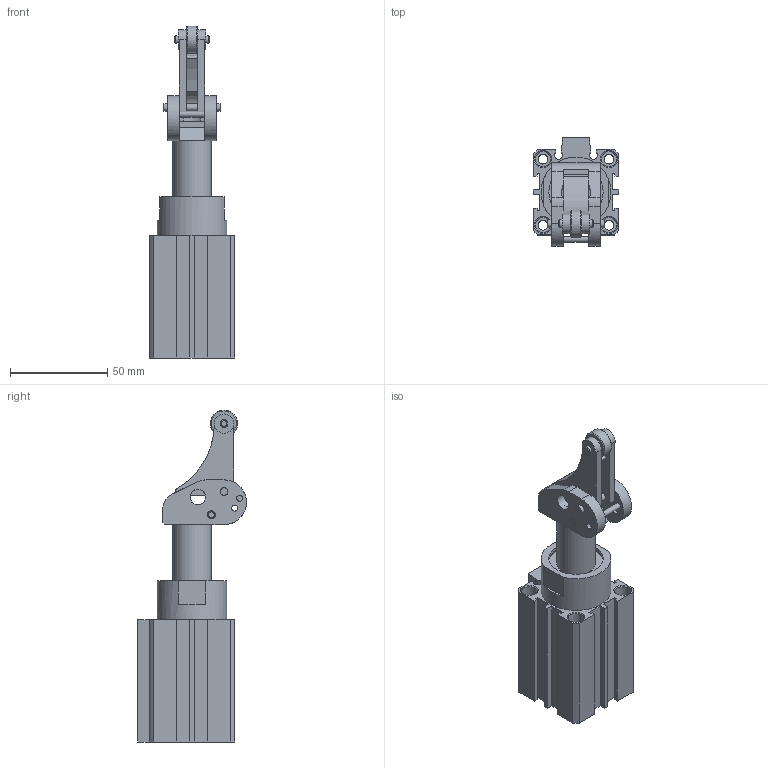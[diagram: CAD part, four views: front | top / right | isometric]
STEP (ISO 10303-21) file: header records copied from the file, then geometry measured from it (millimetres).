
FILE_DESCRIPTION((''),'2;1');
FILE_NAME('I:\3D電子目錄\氣缸\STD\STD\STD32\STD32x15.stp','2007-09-26T08:54:30',('Administrator'),(''),'Autodesk Inventor 11','Autodesk Inventor 11','');
FILE_SCHEMA(('AUTOMOTIVE_DESIGN { 1 0 10303 214 1 1 1 1 }'));
Length unit declared in the file: millimetre
Products named in the file (1): STD32
Bounding box: 44 x 56 x 171 mm (x, y, z)
Volume: 151014.5 mm3; surface area: 40406.2 mm2
Topology: 5 solids, 5 shells, 200 faces, 507 edges, 329 vertices
Faces by surface type: plane 113, cylinder 55, cone 18, bspline 13, torus 1
Full cylindrical faces by diameter (mm): 2.2 x2, 3 x1, 3.1 x4, 4 x6, 4.1 x1, 5.1 x4, 8 x10, 10 x2, 14 x1, 20 x1, 23 x1, 28 x1, 29.4 x1, 34 x2, 36 x2
Entity records: 5974 total; most frequent: CARTESIAN_POINT 1294, DIRECTION 969, ORIENTED_EDGE 864, EDGE_CURVE 432, AXIS2_PLACEMENT_3D 354, VERTEX_POINT 318, EDGE_LOOP 311, VECTOR 261
